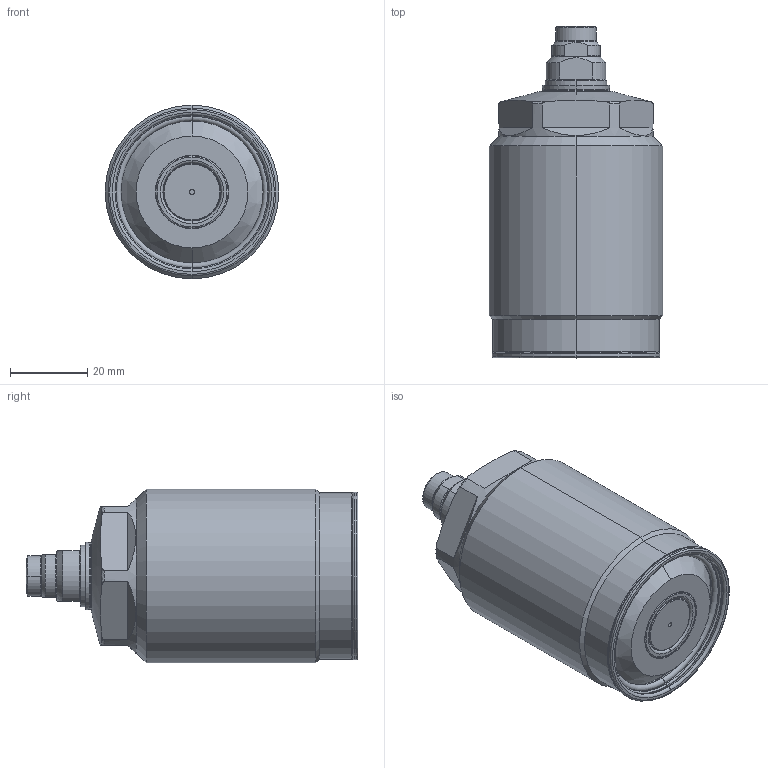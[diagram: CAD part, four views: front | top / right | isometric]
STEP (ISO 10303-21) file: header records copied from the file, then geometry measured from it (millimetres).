
FILE_DESCRIPTION(/* description */ (''),/* implementation_level */ '2;1');
FILE_NAME(/* name */ 'TSC45-M.stp',/* time_stamp */ '2026-02-04T13:54:31+08:00',/* author */ (''),/* organization */ (''),/* preprocessor_version */ 'ST-DEVELOPER v16.7',/* originating_system */ 'SIEMENS PLM Software NX 12.0',/* authorisation */ '');
FILE_SCHEMA (('AUTOMOTIVE_DESIGN { 1 0 10303 214 3 1 1 1 }'));
Length unit declared in the file: millimetre
Products named in the file (9): XLC-M10SP_pad; XLC-M10SP_pin; XLC-M10_Oring; XLC-M10SP_contactbolt; TSC45-M-02; TSC45-M-01; AS568-030(90); TSC45-M-03; LD0453-xM_step
Assembly tree (8 placements, depth 3):
  LD0453-xM_step
    TSC45-M-03
      XLC-M10SP_contactbolt
      XLC-M10_Oring
      XLC-M10SP_pin
      XLC-M10SP_pad
    AS568-030(90)
    TSC45-M-01
    TSC45-M-02
Bounding box: 45 x 86 x 45 mm (x, y, z)
Volume: 102274.3 mm3; surface area: 17463.5 mm2
Topology: 7 solids, 7 shells, 417 faces, 876 edges, 486 vertices
Faces by surface type: cone 244, torus 64, cylinder 58, plane 45, sphere 6
Entity records: 11766 total; most frequent: CARTESIAN_POINT 2454, DIRECTION 2156, ORIENTED_EDGE 1752, AXIS2_PLACEMENT_3D 912, EDGE_CURVE 876, CIRCLE 486, VERTEX_POINT 486, EDGE_LOOP 442
